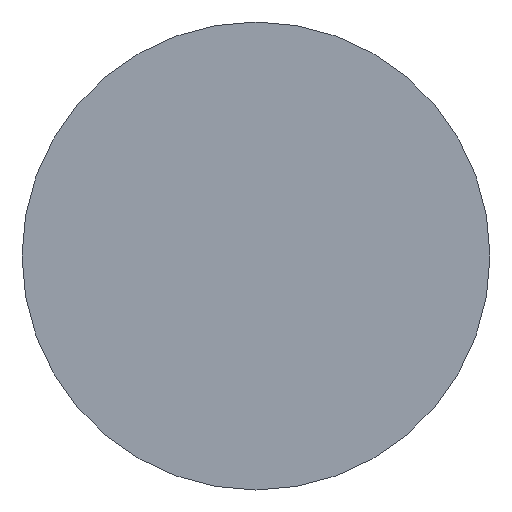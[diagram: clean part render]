
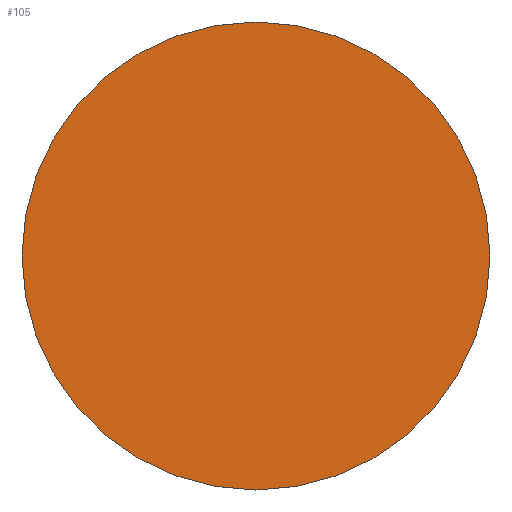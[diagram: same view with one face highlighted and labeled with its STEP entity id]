
A CAD part, front view. The second image highlights one B-rep face of the part: STEP entity #105.
In plain terms, the highlighted planar face has unit normal (0, -1, 0).
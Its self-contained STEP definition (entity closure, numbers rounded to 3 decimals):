
#22 = VERTEX_POINT('',#23);
#23 = CARTESIAN_POINT('',(3.175,109.,300.));
#32 = CYLINDRICAL_SURFACE('',#33,3.175);
#33 = AXIS2_PLACEMENT_3D('',#34,#35,#36);
#34 = CARTESIAN_POINT('',(0.,109.,300.));
#35 = DIRECTION('',(0.,-1.,0.));
#36 = DIRECTION('',(1.,0.,0.));
#79 = EDGE_CURVE('',#22,#22,#80,.T.);
#80 = SURFACE_CURVE('',#81,(#86,#93),.PCURVE_S1.);
#81 = CIRCLE('',#82,3.175);
#82 = AXIS2_PLACEMENT_3D('',#83,#84,#85);
#83 = CARTESIAN_POINT('',(0.,109.,300.));
#84 = DIRECTION('',(0.,-1.,0.));
#85 = DIRECTION('',(1.,0.,0.));
#86 = PCURVE('',#32,#87);
#87 = DEFINITIONAL_REPRESENTATION('',(#88),#92);
#88 = LINE('',#89,#90);
#89 = CARTESIAN_POINT('',(0.,0.));
#90 = VECTOR('',#91,1.);
#91 = DIRECTION('',(1.,0.));
#92 = ( GEOMETRIC_REPRESENTATION_CONTEXT(2) 
PARAMETRIC_REPRESENTATION_CONTEXT() REPRESENTATION_CONTEXT('2D SPACE',''
  ) );
#93 = PCURVE('',#94,#99);
#94 = PLANE('',#95);
#95 = AXIS2_PLACEMENT_3D('',#96,#97,#98);
#96 = CARTESIAN_POINT('',(0.,109.,300.));
#97 = DIRECTION('',(-0.,-1.,-0.));
#98 = DIRECTION('',(0.,0.,-1.));
#99 = DEFINITIONAL_REPRESENTATION('',(#100),#104);
#100 = CIRCLE('',#101,3.175);
#101 = AXIS2_PLACEMENT_2D('',#102,#103);
#102 = CARTESIAN_POINT('',(0.,0.));
#103 = DIRECTION('',(0.,1.));
#104 = ( GEOMETRIC_REPRESENTATION_CONTEXT(2) 
PARAMETRIC_REPRESENTATION_CONTEXT() REPRESENTATION_CONTEXT('2D SPACE',''
  ) );
#105 = ADVANCED_FACE('',(#106),#94,.T.);
#106 = FACE_BOUND('',#107,.T.);
#107 = EDGE_LOOP('',(#108));
#108 = ORIENTED_EDGE('',*,*,#79,.T.);
